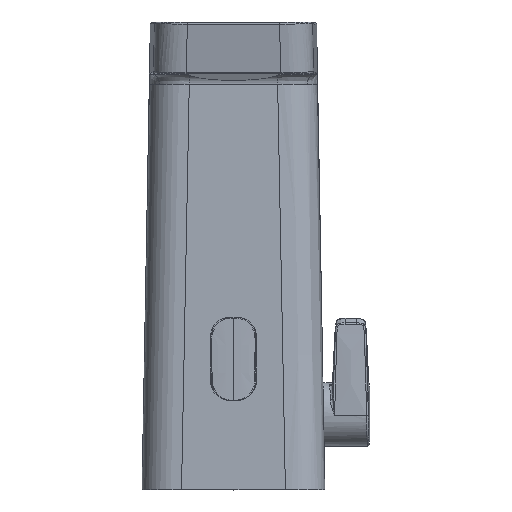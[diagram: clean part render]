
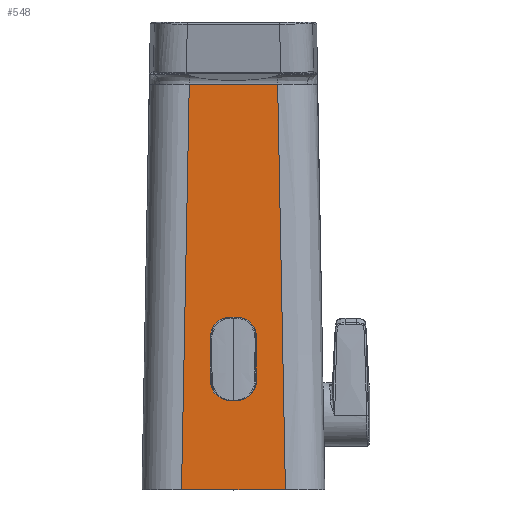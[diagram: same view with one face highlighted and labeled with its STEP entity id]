
A CAD part, top view. The second image highlights one B-rep face of the part: STEP entity #548.
In plain terms, the highlighted planar face has unit normal (0, 0, 1).
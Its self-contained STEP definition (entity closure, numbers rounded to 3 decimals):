
#21 = VERTEX_POINT ( 'NONE', #4761 ) ;
#55 = DIRECTION ( 'NONE',  ( 0.019, -1., 0. ) ) ;
#72 = EDGE_CURVE ( 'NONE', #4860, #2574, #2584, .T. ) ;
#117 = EDGE_LOOP ( 'NONE', ( #5941, #2971, #2391, #3957, #3749, #6063, #5755, #860 ) ) ;
#128 = DIRECTION ( 'NONE',  ( -1., 0., 0. ) ) ;
#214 = CARTESIAN_POINT ( 'NONE',  ( -33.374, 0., 26.073 ) ) ;
#227 = CARTESIAN_POINT ( 'NONE',  ( 1.125, 26., 26.073 ) ) ;
#235 = ORIENTED_EDGE ( 'NONE', *, *, #464, .F. ) ;
#246 = FACE_OUTER_BOUND ( 'NONE', #5718, .T. ) ;
#276 = CARTESIAN_POINT ( 'NONE',  ( -1.125, 26., 26.073 ) ) ;
#335 = CARTESIAN_POINT ( 'NONE',  ( -6.7, 44.625, 26.073 ) ) ;
#339 = VERTEX_POINT ( 'NONE', #834 ) ;
#406 = CARTESIAN_POINT ( 'NONE',  ( 6.7, 0., 26.073 ) ) ;
#449 = CARTESIAN_POINT ( 'NONE',  ( 1.125, 31.575, 26.073 ) ) ;
#464 = EDGE_CURVE ( 'NONE', #4860, #21, #4050, .T. ) ;
#548 = ADVANCED_FACE ( 'NONE', ( #246, #4739 ), #2773, .T. ) ;
#557 = AXIS2_PLACEMENT_3D ( 'NONE', #1819, #3429, #2459 ) ;
#588 = CARTESIAN_POINT ( 'NONE',  ( -1.125, 44.625, 26.073 ) ) ;
#660 = EDGE_CURVE ( 'NONE', #895, #6004, #5847, .T. ) ;
#692 = DIRECTION ( 'NONE',  ( 1., 0., 0. ) ) ;
#703 = VERTEX_POINT ( 'NONE', #335 ) ;
#717 = VECTOR ( 'NONE', #2592, 1000. ) ;
#834 = CARTESIAN_POINT ( 'NONE',  ( 1.125, 50.2, 26.073 ) ) ;
#860 = ORIENTED_EDGE ( 'NONE', *, *, #2091, .T. ) ;
#895 = VERTEX_POINT ( 'NONE', #227 ) ;
#903 = VERTEX_POINT ( 'NONE', #3697 ) ;
#920 = LINE ( 'NONE', #406, #2522 ) ;
#943 = VERTEX_POINT ( 'NONE', #5771 ) ;
#1172 = VECTOR ( 'NONE', #692, 1000. ) ;
#1206 = EDGE_CURVE ( 'NONE', #3326, #903, #920, .T. ) ;
#1292 = VECTOR ( 'NONE', #3347, 1000. ) ;
#1380 = CARTESIAN_POINT ( 'NONE',  ( -33.374, 26., 26.073 ) ) ;
#1453 = VERTEX_POINT ( 'NONE', #5741 ) ;
#1539 = EDGE_CURVE ( 'NONE', #6004, #943, #5444, .T. ) ;
#1589 = CARTESIAN_POINT ( 'NONE',  ( -15.123, 0., 26.073 ) ) ;
#1655 = CIRCLE ( 'NONE', #4353, 5.575 ) ;
#1775 = DIRECTION ( 'NONE',  ( 0., -1., 0. ) ) ;
#1819 = CARTESIAN_POINT ( 'NONE',  ( -1.125, 31.575, 26.073 ) ) ;
#2005 = AXIS2_PLACEMENT_3D ( 'NONE', #214, #4216, #2290 ) ;
#2044 = LINE ( 'NONE', #4030, #717 ) ;
#2091 = EDGE_CURVE ( 'NONE', #903, #895, #5250, .T. ) ;
#2129 = CARTESIAN_POINT ( 'NONE',  ( 15.123, 0., 26.073 ) ) ;
#2290 = DIRECTION ( 'NONE',  ( 0., -1., 0. ) ) ;
#2374 = CARTESIAN_POINT ( 'NONE',  ( 6.7, 44.625, 26.073 ) ) ;
#2391 = ORIENTED_EDGE ( 'NONE', *, *, #4000, .T. ) ;
#2424 = AXIS2_PLACEMENT_3D ( 'NONE', #449, #2429, #4424 ) ;
#2429 = DIRECTION ( 'NONE',  ( 0., 0., -1. ) ) ;
#2459 = DIRECTION ( 'NONE',  ( 0., -1., 0. ) ) ;
#2489 = LINE ( 'NONE', #5497, #1172 ) ;
#2522 = VECTOR ( 'NONE', #1775, 1000. ) ;
#2550 = DIRECTION ( 'NONE',  ( 0.019, 1., 0. ) ) ;
#2574 = VERTEX_POINT ( 'NONE', #4731 ) ;
#2584 = LINE ( 'NONE', #3527, #4601 ) ;
#2592 = DIRECTION ( 'NONE',  ( -1., 0., 0. ) ) ;
#2762 = EDGE_CURVE ( 'NONE', #703, #1453, #6291, .T. ) ;
#2773 = PLANE ( 'NONE',  #2005 ) ;
#2971 = ORIENTED_EDGE ( 'NONE', *, *, #1539, .T. ) ;
#2972 = EDGE_CURVE ( 'NONE', #1453, #339, #2489, .T. ) ;
#3034 = DIRECTION ( 'NONE',  ( 0., -1., 0. ) ) ;
#3326 = VERTEX_POINT ( 'NONE', #2374 ) ;
#3347 = DIRECTION ( 'NONE',  ( -1., 0., 0. ) ) ;
#3426 = CARTESIAN_POINT ( 'NONE',  ( 12.866, 118., 26.073 ) ) ;
#3429 = DIRECTION ( 'NONE',  ( 0., 0., -1. ) ) ;
#3492 = LINE ( 'NONE', #3560, #6235 ) ;
#3527 = CARTESIAN_POINT ( 'NONE',  ( -33.374, 118., 26.073 ) ) ;
#3560 = CARTESIAN_POINT ( 'NONE',  ( -12.866, 118., 26.073 ) ) ;
#3697 = CARTESIAN_POINT ( 'NONE',  ( 6.7, 31.575, 26.073 ) ) ;
#3749 = ORIENTED_EDGE ( 'NONE', *, *, #2972, .T. ) ;
#3957 = ORIENTED_EDGE ( 'NONE', *, *, #2762, .T. ) ;
#4000 = EDGE_CURVE ( 'NONE', #943, #703, #5821, .T. ) ;
#4030 = CARTESIAN_POINT ( 'NONE',  ( -27.158, 0., 26.073 ) ) ;
#4050 = LINE ( 'NONE', #2129, #6394 ) ;
#4084 = CARTESIAN_POINT ( 'NONE',  ( 1.125, 44.625, 26.073 ) ) ;
#4216 = DIRECTION ( 'NONE',  ( 0., 0., 1. ) ) ;
#4353 = AXIS2_PLACEMENT_3D ( 'NONE', #4084, #6084, #3034 ) ;
#4424 = DIRECTION ( 'NONE',  ( 0., -1., 0. ) ) ;
#4559 = EDGE_CURVE ( 'NONE', #21, #5468, #2044, .T. ) ;
#4601 = VECTOR ( 'NONE', #128, 1000. ) ;
#4613 = AXIS2_PLACEMENT_3D ( 'NONE', #588, #5050, #6057 ) ;
#4731 = CARTESIAN_POINT ( 'NONE',  ( -12.866, 118., 26.073 ) ) ;
#4739 = FACE_BOUND ( 'NONE', #117, .T. ) ;
#4761 = CARTESIAN_POINT ( 'NONE',  ( 15.123, 0., 26.073 ) ) ;
#4860 = VERTEX_POINT ( 'NONE', #3426 ) ;
#4935 = DIRECTION ( 'NONE',  ( 0., 1., 0. ) ) ;
#5050 = DIRECTION ( 'NONE',  ( 0., 0., -1. ) ) ;
#5250 = CIRCLE ( 'NONE', #2424, 5.575 ) ;
#5444 = CIRCLE ( 'NONE', #557, 5.575 ) ;
#5468 = VERTEX_POINT ( 'NONE', #1589 ) ;
#5497 = CARTESIAN_POINT ( 'NONE',  ( -33.374, 50.2, 26.073 ) ) ;
#5601 = EDGE_CURVE ( 'NONE', #339, #3326, #1655, .T. ) ;
#5705 = EDGE_CURVE ( 'NONE', #5468, #2574, #3492, .T. ) ;
#5718 = EDGE_LOOP ( 'NONE', ( #5957, #5890, #235, #6422 ) ) ;
#5741 = CARTESIAN_POINT ( 'NONE',  ( -1.125, 50.2, 26.073 ) ) ;
#5755 = ORIENTED_EDGE ( 'NONE', *, *, #1206, .T. ) ;
#5771 = CARTESIAN_POINT ( 'NONE',  ( -6.7, 31.575, 26.073 ) ) ;
#5821 = LINE ( 'NONE', #5913, #6333 ) ;
#5847 = LINE ( 'NONE', #1380, #1292 ) ;
#5890 = ORIENTED_EDGE ( 'NONE', *, *, #4559, .F. ) ;
#5913 = CARTESIAN_POINT ( 'NONE',  ( -6.7, 0., 26.073 ) ) ;
#5941 = ORIENTED_EDGE ( 'NONE', *, *, #660, .T. ) ;
#5957 = ORIENTED_EDGE ( 'NONE', *, *, #5705, .F. ) ;
#6004 = VERTEX_POINT ( 'NONE', #276 ) ;
#6057 = DIRECTION ( 'NONE',  ( 0., -1., 0. ) ) ;
#6063 = ORIENTED_EDGE ( 'NONE', *, *, #5601, .T. ) ;
#6084 = DIRECTION ( 'NONE',  ( 0., 0., -1. ) ) ;
#6235 = VECTOR ( 'NONE', #2550, 1000. ) ;
#6291 = CIRCLE ( 'NONE', #4613, 5.575 ) ;
#6333 = VECTOR ( 'NONE', #4935, 1000. ) ;
#6394 = VECTOR ( 'NONE', #55, 1000. ) ;
#6422 = ORIENTED_EDGE ( 'NONE', *, *, #72, .T. ) ;
